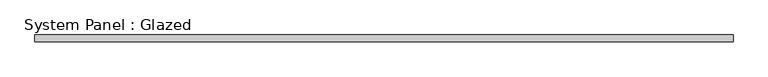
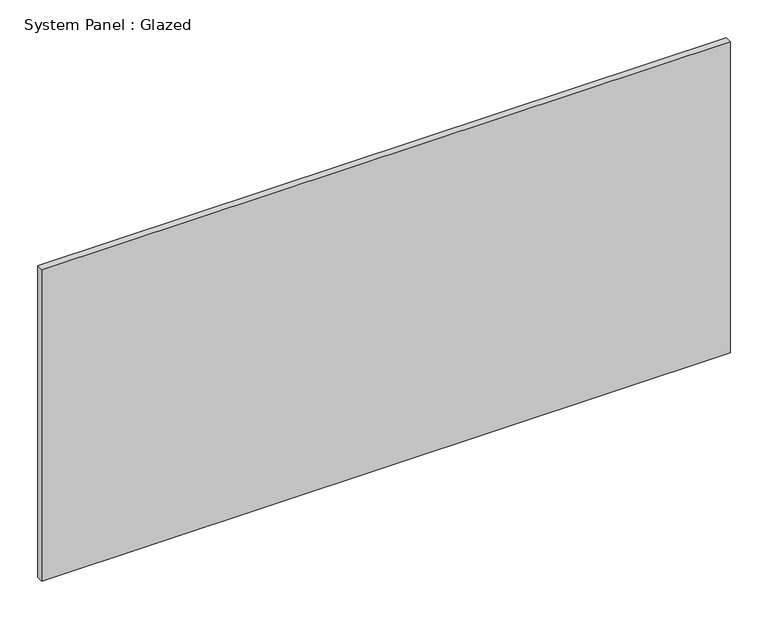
"""IFC4 building model written with IfcOpenShell, lengths in millimetres: plate geometry, System Panel : Glazed."""

from ifc_helpers import new_model, si_unit, origin, origin_with_axes, place, context, project, spatial, polyline, outline, extrude, source, transform, mapped, element, save


def system_panel_glazed_a2d9e6c2(model_context):
    return source(origin(), model_context, "Body", "SweptSolid", [
        extrude(outline(polyline([(526.3436275, -5.0), (-526.3436275, -5.0), (-526.3436275, 5.0), (526.3436275, 5.0), (526.3436275, -5.0)])), origin_with_axes(), (0.0, 0.0, 1.0), 503.3333333),
    ])


if __name__ == "__main__":
    model = new_model("IFC4")
    model_context = context("Model", 3, world=origin())
    ifc_project = project(units=[si_unit("LENGTHUNIT", "METRE", prefix="MILLI")], contexts=[model_context])
    site = spatial("IfcSite", under=ifc_project)
    building = spatial("IfcBuilding", under=site)
    placement = place(None, origin())
    system_panel_glazed_shape = system_panel_glazed_a2d9e6c2(model_context)
    element("IfcPlate", 1, ObjectType="System Panel : Glazed", at=placement, inside=building, context=model_context, shape_type="MappedRepresentation", body=[
        mapped(system_panel_glazed_shape, transform((0.0, 0.0, 0.0), x_axis=(1.0, 0.0, 0.0), y_axis=(0.0, 1.0, 0.0), z_axis=(0.0, 0.0, 1.0))),
    ])
    save(model, "model.ifc")
